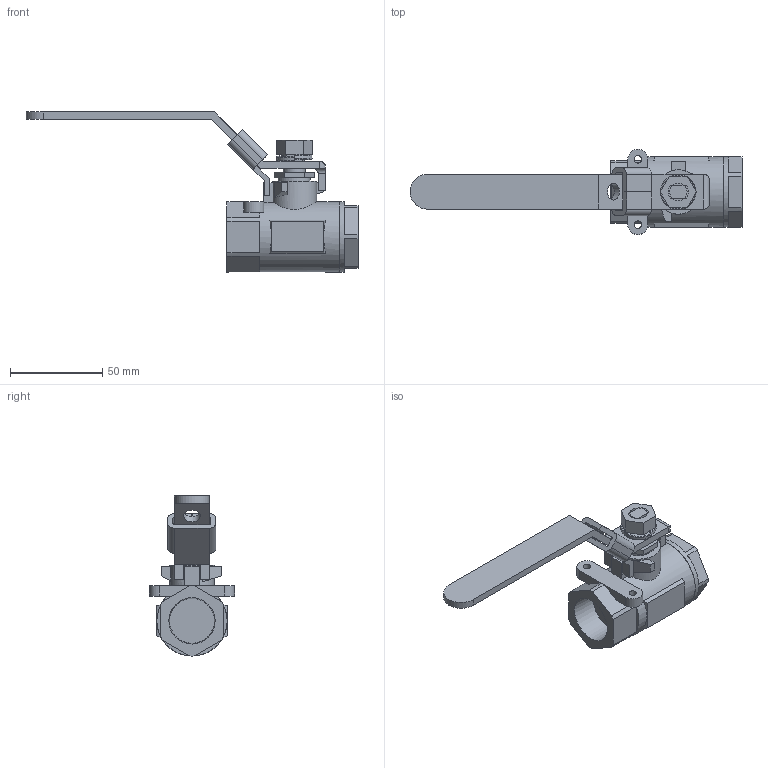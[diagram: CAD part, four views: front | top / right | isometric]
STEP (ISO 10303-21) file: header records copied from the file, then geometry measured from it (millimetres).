
FILE_DESCRIPTION((' '),'2;1');
FILE_NAME('N:\Technical Support\Private\Jomar Valve CAD\Ball Valves\CS and SS\2000N\.75 T-CS[SS]-2000N (100-954 [100-934])FusionCopy.stp.step','2016-07-05T12:08:02',(' '),(' '),' ','ACIS',' ');
FILE_SCHEMA(('CONFIG_CONTROL_DESIGN'));
Length unit declared in the file: inch
Products named in the file (9): N:\Technical Support\Private\Jomar Valve CAD\Ball Valves\CS and SS\2000N\.75 T-CS[SS]-2000N (100-954 [100-934])FusionCopy.stp.step; Body1; Body2; Body3; Body4; Body5; Body6; Body7; Body8
Assembly tree (8 placements, depth 2):
  N:\Technical Support\Private\Jomar Valve CAD\Ball Valves\CS and SS\2000N\.75 T-CS[SS]-2000N (100-954 [100-934])FusionCopy.stp.step
    Body1
    Body2
    Body3
    Body4
    Body5
    Body6
    Body7
    Body8
Bounding box: 180.09 x 46.23 x 86.8 mm (x, y, z)
Volume: 93682.3 mm3; surface area: 31581.5 mm2
Topology: 8 solids, 8 shells, 191 faces, 490 edges, 320 vertices
Faces by surface type: plane 125, cylinder 32, bspline 14, cone 12, torus 8
Full cylindrical faces by diameter (mm): 4.064 x2, 9.017 x1, 9.525 x1, 11.963 x2, 17.475 x1, 24.13 x1, 38.1 x2
Entity records: 6987 total; most frequent: CARTESIAN_POINT 1111, DIRECTION 981, ORIENTED_EDGE 932, EDGE_CURVE 466, AXIS2_PLACEMENT_3D 331, VECTOR 319, LINE 319, VERTEX_POINT 310
